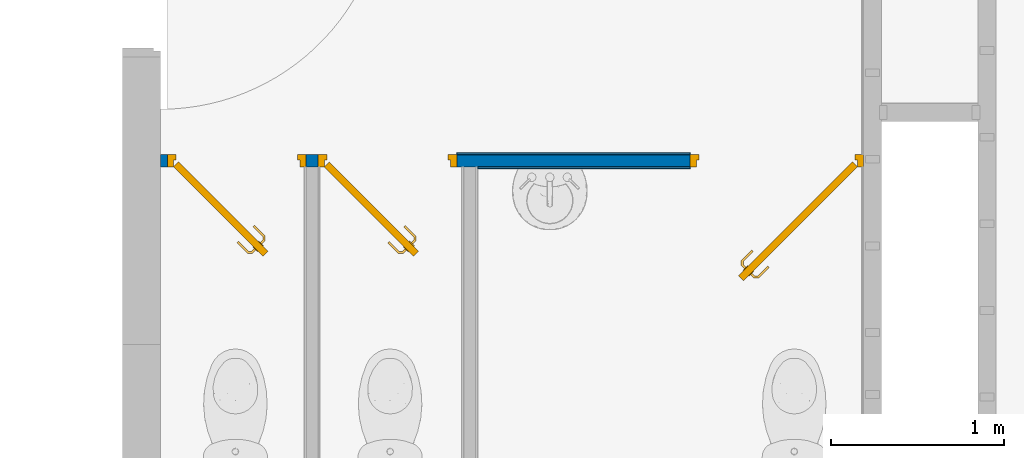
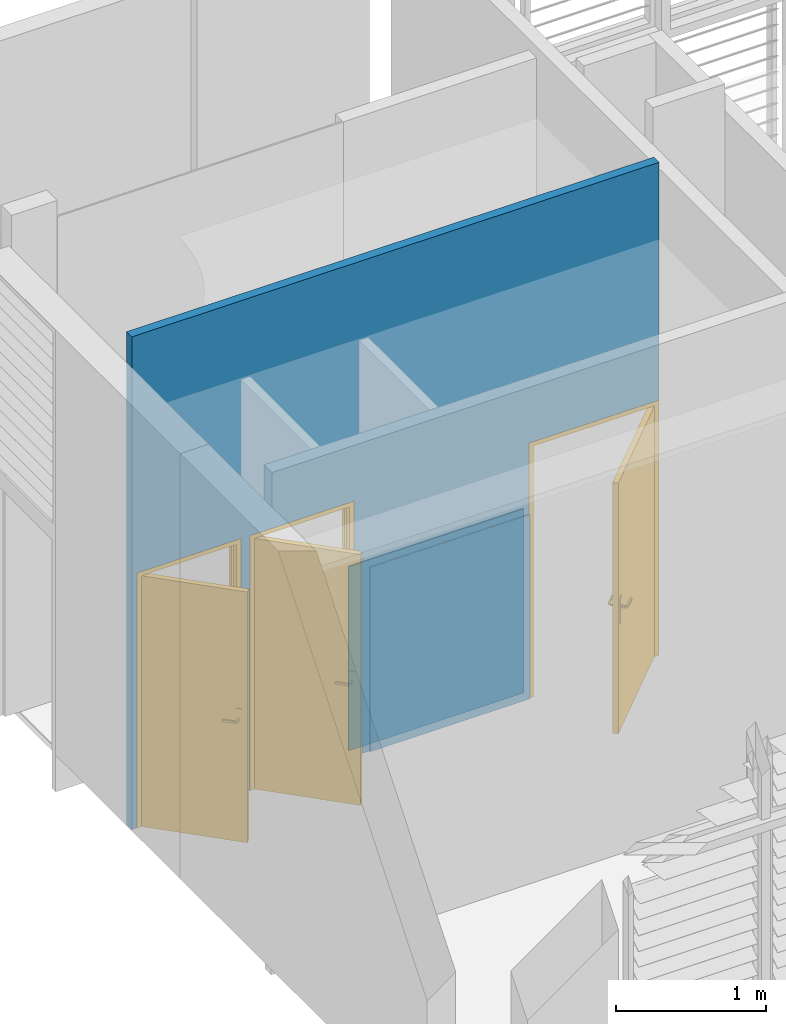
# One storey, part 5 of 8: 3 doors, 3 walls, 3 openings.
"""IFC2X3 building model written with IfcOpenShell, lengths in metres."""

import ifcopenshell
import ifcopenshell.guid

model = None  # the IFC model being written
_history = None  # IfcOwnerHistory: only IFC2X3 demands one
_inside = {}  # id of a spatial element -> (the spatial element, [elements in it])
_under = {}  # id of a project, library or spatial element -> (it, [spatial elements below it])
_declared = {}  # id of a project -> (the project, [libraries it declares])
_typed = {}  # id of a type object -> (the type object, [elements of that type])
_made_of = {}  # id of a material, layer set ... -> (it, [elements and type objects made of it])


def new_model(schema):
    """Start an empty IFC model of exactly this schema.

    Asked for "IFC4X3", IfcOpenShell would pick the latest addendum, in which some entities
    have other attributes; the version numbers below select the first issue.
    IFC2X3 requires an IfcOwnerHistory on every rooted entity: one is made here for all.
    """
    global model, _history
    if schema == "IFC4X3":
        model = ifcopenshell.file(schema_version=(4, 3, 0, 0))
    else:
        model = ifcopenshell.file(schema=schema)
    _inside.clear()
    _under.clear()
    _declared.clear()
    _typed.clear()
    _made_of.clear()
    _history = None
    if model.schema == "IFC2X3":
        org = make("IfcOrganization", Name="unknown")
        user = make(
            "IfcPersonAndOrganization",
            ThePerson=make("IfcPerson", FamilyName="unknown"),
            TheOrganization=org,
        )
        app = make(
            "IfcApplication",
            ApplicationDeveloper=org,
            Version="unknown",
            ApplicationFullName="unknown",
            ApplicationIdentifier="unknown",
        )
        _history = make(
            "IfcOwnerHistory",
            OwningUser=user,
            OwningApplication=app,
            ChangeAction="ADDED",
            CreationDate=0,
        )
    return model


def make(cls, **values):
    """One entity of the class cls with the attributes given. An attribute that is None is left unset."""
    return model.create_entity(
        cls, **{name: value for name, value in values.items() if value is not None}
    )


def entity(cls, *values):
    """Any entity or typed value of the class cls, its attributes in the order of the schema. None: left unset."""
    e = model.create_entity(cls)
    for i, value in enumerate(values):
        if value is not None:
            e[i] = value
    return e


def rooted(cls, **values):
    """An entity with a GlobalId (a new one), such as an element, a storey or a relation."""
    return make(cls, GlobalId=ifcopenshell.guid.new(), OwnerHistory=_history, **values)


def si_unit(unit_type, name, prefix=None):
    """IfcSIUnit, for example si_unit("LENGTHUNIT", "METRE", prefix="MILLI")."""
    return make("IfcSIUnit", UnitType=unit_type, Prefix=prefix, Name=name)


def converted_unit(unit_type, name, factor, base, dimensions=None, offset=None):
    """IfcConversionBasedUnit, such as the inch: factor (a typed value) times the base unit."""
    return make(
        "IfcConversionBasedUnit"
        if offset is None
        else "IfcConversionBasedUnitWithOffset",
        ConversionOffset=offset,
        Dimensions=None
        if dimensions is None
        else entity("IfcDimensionalExponents", *dimensions),
        UnitType=unit_type,
        Name=name,
        ConversionFactor=make(
            "IfcMeasureWithUnit", ValueComponent=factor, UnitComponent=base
        ),
    )


def derived_unit(unit_type, elements):
    """IfcDerivedUnit: a product of units, each with its exponent."""
    return make(
        "IfcDerivedUnit",
        Elements=[
            make("IfcDerivedUnitElement", Unit=unit, Exponent=power)
            for unit, power in elements
        ],
        UnitType=unit_type,
    )


def assignment(units):
    """IfcUnitAssignment: the units of a project."""
    return None if units is None else make("IfcUnitAssignment", Units=units)


def point(xyz):
    """IfcCartesianPoint."""
    return None if xyz is None else make("IfcCartesianPoint", Coordinates=xyz)


def direction(xyz):
    """IfcDirection."""
    return None if xyz is None else make("IfcDirection", DirectionRatios=xyz)


def frame(location, z_axis=None, x_axis=None):
    """IfcAxis2Placement3D, a coordinate frame: its origin and axes. An axis left out is left unset."""
    return make(
        "IfcAxis2Placement3D",
        Location=point(location),
        Axis=direction(z_axis),
        RefDirection=direction(x_axis),
    )


def frame_2d(location, x_axis=None):
    """IfcAxis2Placement2D, a coordinate frame in the plane: its origin and x axis."""
    return make(
        "IfcAxis2Placement2D", Location=point(location), RefDirection=direction(x_axis)
    )


def origin():
    """The frame at (0, 0, 0) with its axes left unset."""
    return frame((0.0, 0.0, 0.0))


def place(relative_to, where):
    """IfcLocalPlacement: puts the frame where relative to a parent placement (None: the world)."""
    return make(
        "IfcLocalPlacement", PlacementRelTo=relative_to, RelativePlacement=where
    )


def context(
    kind, dimensions, precision=None, world=None, true_north=None, identifier=None
):
    """IfcGeometricRepresentationContext, for example the 3D "Model" context."""
    return make(
        "IfcGeometricRepresentationContext",
        ContextIdentifier=identifier,
        ContextType=kind,
        CoordinateSpaceDimension=dimensions,
        Precision=precision,
        WorldCoordinateSystem=world,
        TrueNorth=true_north,
    )


def subcontext(parent, identifier, kind, view, scale=None):
    """IfcGeometricRepresentationSubContext, for example "Body" below "Model"."""
    return make(
        "IfcGeometricRepresentationSubContext",
        ContextIdentifier=identifier,
        ContextType=kind,
        ParentContext=parent,
        TargetScale=scale,
        TargetView=view,
    )


def project(units=None, contexts=None):
    """IfcProject with its units and contexts."""
    return rooted(
        "IfcProject",
        Name="project",
        RepresentationContexts=contexts,
        UnitsInContext=assignment(units),
    )


def spatial(cls, under=None, at=None, **own):
    """A site, building, storey or space (cls), placed at a placement, below another one or the project."""
    s = rooted(cls, ObjectPlacement=at, **own)
    if under is not None:
        _under.setdefault(under.id(), (under, []))[1].append(s)
    return s


def profile(cls, at=None, kind="AREA", **sizes):
    """A parametric profile (cls). Its sizes go by their IFC names, for example OverallWidth=200.0."""
    return make(cls, ProfileType=kind, Position=at, **sizes)


def rectangle(**sizes):
    """IfcRectangleProfileDef."""
    return profile("IfcRectangleProfileDef", **sizes)


def extrude(swept, where, along, depth):
    """IfcExtrudedAreaSolid: the profile swept, set in the frame where, extruded along a direction by depth."""
    return make(
        "IfcExtrudedAreaSolid",
        SweptArea=swept,
        Position=where,
        ExtrudedDirection=direction(along),
        Depth=depth,
    )


def faces_of(points, faces, orient=None, outer=None):
    """IfcFace entities. A face is a list of loops; a loop is a list of indices into points, from 0.

    orient and outer hold one flag for each loop. By default every Orientation is true, the
    first loop of a face is its IfcFaceOuterBound and the others are IfcFaceBound.
    """
    made = []
    for i, loops in enumerate(faces):
        bounds = []
        for j, loop in enumerate(loops):
            is_outer = j == 0 if outer is None else outer[i][j]
            bounds.append(
                make(
                    "IfcFaceOuterBound" if is_outer else "IfcFaceBound",
                    Bound=make("IfcPolyLoop", Polygon=[points[k] for k in loop]),
                    Orientation=True if orient is None else orient[i][j],
                )
            )
        made.append(make("IfcFace", Bounds=bounds))
    return made


def faceted_brep(points, faces, orient=None, outer=None, voids=None):
    """IfcFacetedBrep: a solid bounded by flat faces; with voids (closed shells), ...WithVoids."""
    shared = [point(p) for p in points]
    hull = make("IfcClosedShell", CfsFaces=faces_of(shared, faces, orient, outer))
    if voids is None:
        return make("IfcFacetedBrep", Outer=hull)
    return make(
        "IfcFacetedBrepWithVoids",
        Outer=hull,
        Voids=[
            make(cls, CfsFaces=faces_of(shared, fs, o, b)) for cls, fs, o, b in voids
        ],
    )


def shape(context_of_items, identifier, shape_type, items):
    """IfcShapeRepresentation: the items that make up one representation, for example the "Body"."""
    return make(
        "IfcShapeRepresentation",
        ContextOfItems=context_of_items,
        RepresentationIdentifier=identifier,
        RepresentationType=shape_type,
        Items=items,
    )


def source(mapping_origin, context_of_items, identifier, shape_type, items):
    """IfcRepresentationMap: a shape defined once, which mapped items show again and again."""
    return make(
        "IfcRepresentationMap",
        MappingOrigin=mapping_origin,
        MappedRepresentation=shape(context_of_items, identifier, shape_type, items),
    )


def transform(
    local_origin,
    x_axis=None,
    y_axis=None,
    z_axis=None,
    scale=None,
    scale2=None,
    scale3=None,
    uniform=True,
):
    """IfcCartesianTransformationOperator3D, or its non-uniform kind. x_axis, y_axis, z_axis: its Axis1, 2, 3."""
    if uniform:
        return make(
            "IfcCartesianTransformationOperator3D",
            Axis1=direction(x_axis),
            Axis2=direction(y_axis),
            LocalOrigin=point(local_origin),
            Scale=scale,
            Axis3=direction(z_axis),
        )
    return make(
        "IfcCartesianTransformationOperator3DnonUniform",
        Axis1=direction(x_axis),
        Axis2=direction(y_axis),
        LocalOrigin=point(local_origin),
        Scale=scale,
        Axis3=direction(z_axis),
        Scale2=scale2,
        Scale3=scale3,
    )


def mapped(mapping_source, mapping_target):
    """IfcMappedItem: shows the shape of a source again, moved by a transform."""
    return make(
        "IfcMappedItem", MappingSource=mapping_source, MappingTarget=mapping_target
    )


def material(Name=None, Category=None):
    """IfcMaterial."""
    return make("IfcMaterial", Name=Name, Category=Category)


def layer(
    of_material, thickness, ventilated=None, Name=None, Category=None, Priority=None
):
    """IfcMaterialLayer: one layer of a wall or slab, of a material (None: an air gap)."""
    return make(
        "IfcMaterialLayer",
        Material=of_material,
        LayerThickness=thickness,
        IsVentilated=ventilated,
        Name=Name,
        Category=Category,
        Priority=Priority,
    )


def layer_set(layers, Name=None):
    """IfcMaterialLayerSet."""
    return make("IfcMaterialLayerSet", MaterialLayers=layers, LayerSetName=Name)


def layer_usage(for_layer_set, set_direction, sense, offset, extent=None):
    """IfcMaterialLayerSetUsage: how a layer set lies in its element."""
    return make(
        "IfcMaterialLayerSetUsage",
        ForLayerSet=for_layer_set,
        LayerSetDirection=set_direction,
        DirectionSense=sense,
        OffsetFromReferenceLine=offset,
        ReferenceExtent=extent,
    )


def made_of(thing, what):
    """Note that an element or type object is made of a material, layer set ...; save() writes the relation."""
    if what is not None:
        _made_of.setdefault(what.id(), (what, []))[1].append(thing)
    return thing


def type_object(cls, material=None, **own):
    """A type object (cls), such as IfcWallType, which elements share."""
    return made_of(rooted(cls, **own), material)


def type_shapes(of_type, sources):
    """Give a type object the sources (RepresentationMaps) that its elements show as mapped items."""
    of_type.RepresentationMaps = sources


def element(
    cls,
    number,
    at=None,
    inside=None,
    cuts=None,
    type_object=None,
    material=None,
    context=None,
    identifier="Body",
    shape_type=None,
    held_by="IfcProductDefinitionShape",
    body=None,
    shapes=None,
    **own,
):
    """One element of the class cls, such as IfcWall. Its Tag is "e" and its number.

    at: its placement. inside: the storey or other place that contains it. cuts: it is an
    opening in that element (IfcRelVoidsElement). A single representation is given by context,
    identifier, shape_type and body (its items); several are given by shapes. held_by: the class
    of the entity that holds the representations. save() writes the other relations.
    """
    e = rooted(cls, Tag="e%d" % number, ObjectPlacement=at, **own)
    if body is not None:
        shapes = [shape(context, identifier, shape_type, body)]
    if shapes is not None:
        e.Representation = make(held_by, Representations=shapes)
    if inside is not None:
        _inside.setdefault(inside.id(), (inside, []))[1].append(e)
    if cuts is not None:
        rooted(
            "IfcRelVoidsElement", RelatingBuildingElement=cuts, RelatedOpeningElement=e
        )
    if type_object is not None:
        _typed.setdefault(type_object.id(), (type_object, []))[1].append(e)
    return made_of(e, material)


def fill(opening, filler):
    """IfcRelFillsElement: the door or window that sits in an opening."""
    return rooted(
        "IfcRelFillsElement",
        RelatingOpeningElement=opening,
        RelatedBuildingElement=filler,
    )


def aggregate(whole, parts):
    """IfcRelAggregates: a whole, such as a stair, and the parts it consists of."""
    return rooted("IfcRelAggregates", RelatingObject=whole, RelatedObjects=parts)


def save(model, path):
    """Write the relations noted so far, then the file.

    IfcRelAggregates (storeys below a building ...), IfcRelContainedInSpatialStructure (elements
    in a storey), IfcRelDefinesByType, IfcRelAssociatesMaterial and IfcRelDeclares: one each for
    every whole, place, type object, material and project.
    """
    for whole, parts in _under.values():
        aggregate(whole, parts)
    for where, things in _inside.values():
        rooted(
            "IfcRelContainedInSpatialStructure",
            RelatedElements=things,
            RelatingStructure=where,
        )
    for kind, things in _typed.values():
        rooted("IfcRelDefinesByType", RelatedObjects=things, RelatingType=kind)
    for what, things in _made_of.values():
        rooted("IfcRelAssociatesMaterial", RelatedObjects=things, RelatingMaterial=what)
    for by, libraries in _declared.values():
        rooted("IfcRelDeclares", RelatingContext=by, RelatedDefinitions=libraries)
    model.write(path)


model = new_model("IFC2X3")

# Units and contexts
model_context = context("Model", 3, precision=1e-05, world=origin(), true_north=direction((6.12303176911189e-17, 1.0)))
body_context = subcontext(model_context, "Body", "Model", "MODEL_VIEW")
ifc_project = project(units=[si_unit("LENGTHUNIT", "METRE"), si_unit("AREAUNIT", "SQUARE_METRE"), si_unit("VOLUMEUNIT", "CUBIC_METRE"), converted_unit("PLANEANGLEUNIT", "DEGREE", entity("IfcRatioMeasure", 0.0174532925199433), si_unit("PLANEANGLEUNIT", "RADIAN"), dimensions=[0, 0, 0, 0, 0, 0, 0]), si_unit("MASSUNIT", "GRAM", prefix="KILO"), derived_unit("MASSDENSITYUNIT", [(si_unit("MASSUNIT", "GRAM", prefix="KILO"), 1), (si_unit("LENGTHUNIT", "METRE"), -3)]), si_unit("TIMEUNIT", "SECOND"), si_unit("FREQUENCYUNIT", "HERTZ"), si_unit("THERMODYNAMICTEMPERATUREUNIT", "DEGREE_CELSIUS"), derived_unit("THERMALTRANSMITTANCEUNIT", [(si_unit("MASSUNIT", "GRAM", prefix="KILO"), 1), (si_unit("THERMODYNAMICTEMPERATUREUNIT", "KELVIN"), -1), (si_unit("TIMEUNIT", "SECOND"), -3)]), derived_unit("VOLUMETRICFLOWRATEUNIT", [(si_unit("LENGTHUNIT", "METRE"), 3), (si_unit("TIMEUNIT", "SECOND"), -1)]), si_unit("ELECTRICCURRENTUNIT", "AMPERE"), si_unit("ELECTRICVOLTAGEUNIT", "VOLT"), si_unit("POWERUNIT", "WATT"), si_unit("FORCEUNIT", "NEWTON", prefix="KILO"), si_unit("ILLUMINANCEUNIT", "LUX"), si_unit("LUMINOUSFLUXUNIT", "LUMEN"), si_unit("LUMINOUSINTENSITYUNIT", "CANDELA"), derived_unit("USERDEFINED", [(si_unit("MASSUNIT", "GRAM", prefix="KILO"), -1), (si_unit("LENGTHUNIT", "METRE"), -2), (si_unit("TIMEUNIT", "SECOND"), 3), (si_unit("LUMINOUSFLUXUNIT", "LUMEN"), 1)]), derived_unit("LINEARVELOCITYUNIT", [(si_unit("LENGTHUNIT", "METRE"), 1), (si_unit("TIMEUNIT", "SECOND"), -1)]), si_unit("PRESSUREUNIT", "PASCAL"), derived_unit("USERDEFINED", [(si_unit("LENGTHUNIT", "METRE"), -2), (si_unit("MASSUNIT", "GRAM", prefix="KILO"), 1), (si_unit("TIMEUNIT", "SECOND"), -2)])], contexts=[model_context])

# Site, building, storey
site_placement = place(None, origin())
site = spatial("IfcSite", under=ifc_project, at=site_placement, Name="Surface", CompositionType="ELEMENT")
building_placement = place(site_placement, origin())
building = spatial("IfcBuilding", under=site, at=building_placement, Name="ExPREF", CompositionType="ELEMENT")
storey_placement = place(building_placement, origin())
storey = spatial("IfcBuildingStorey", under=building, at=storey_placement, Name="RDC", CompositionType="ELEMENT", Elevation=-6.89719131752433e-12)

# Wall, openings, doors
ifc_material_1 = material(Name="AA-fermacell peint")
ifc_layer_1 = layer(ifc_material_1, 0.0125)
ifc_material_2 = material(Name="AA-isolant plancher")
ifc_layer_2 = layer(ifc_material_2, 0.045)
ifc_layer_3 = layer(ifc_material_1, 0.0125)
ifc_layer_set_1 = layer_set([ifc_layer_1, ifc_layer_2, ifc_layer_3], Name="Mur de base:Générique - Int. 70 mm")
ifc_layer_usage_1 = layer_usage(ifc_layer_set_1, "AXIS2", "POSITIVE", -0.035)
wall_type_1 = type_object("IfcWallType", Name="Mur de base:Générique - Int. 70 mm", PredefinedType="STANDARD", material=ifc_layer_set_1)
wall_1_placement = place(storey_placement, frame((49.4372436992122, -188.71606962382, 0.0), z_axis=(0.0, 0.0, 1.0), x_axis=(-1.0, 0.0, 0.0)))
wall_1 = element("IfcWallStandardCase", 1, at=wall_1_placement, inside=storey, type_object=wall_type_1, material=ifc_layer_usage_1, Name="Mur de base:Générique - Int. 70 mm", ObjectType="Mur de base:Générique - Int. 70 mm", context=body_context, shape_type="SweptSolid", body=[
    extrude(rectangle(XDim=4.05750000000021, YDim=0.0700000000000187, at=frame_2d((2.02875000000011, 0.0), x_axis=(-1.0, 0.0))), origin(), (0.0, 0.0, 1.0), 4.01000000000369),
])
opening_1_placement = place(wall_1_placement, frame((0.0, -0.035, 0.0)))
opening_1 = element("IfcOpeningElement", 2, at=opening_1_placement, cuts=wall_1, Name="Porte intérieur bois:PP (0.93m x 2.04m):1", ObjectType="Opening", context=body_context, shape_type="SweptSolid", body=[
    extrude(rectangle(XDim=2.075, YDim=1.0, at=frame_2d((1.0375, 0.5), x_axis=(1.0, 0.0))), frame((0.0, 0.0, 0.0), z_axis=(0.0, 1.0, 0.0), x_axis=(0.0, 0.0, 1.0)), (0.0, 0.0, 1.0), 0.07),
])
opening_2_placement = place(wall_1_placement, frame((2.34750000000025, -0.035, 0.0)))
opening_2 = element("IfcOpeningElement", 3, at=opening_2_placement, cuts=wall_1, Name="Porte intérieur bois:PP (0.73m x 2.04m):1", ObjectType="Opening", context=body_context, shape_type="SweptSolid", body=[
    extrude(rectangle(XDim=2.075, YDim=0.799999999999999, at=frame_2d((1.0375, 0.4), x_axis=(1.0, 0.0))), frame((0.0, 0.0, 0.0), z_axis=(0.0, 1.0, 0.0), x_axis=(0.0, 0.0, 1.0)), (0.0, 0.0, 1.0), 0.07),
])
opening_3_placement = place(wall_1_placement, frame((3.21750000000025, -0.035, 0.0)))
opening_3 = element("IfcOpeningElement", 4, at=opening_3_placement, cuts=wall_1, Name="Porte intérieur bois:PP (0.73m x 2.04m):1", ObjectType="Opening", context=body_context, shape_type="SweptSolid", body=[
    extrude(rectangle(XDim=2.075, YDim=0.799999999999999, at=frame_2d((1.0375, 0.4), x_axis=(1.0, 0.0))), frame((0.0, 0.0, 0.0), z_axis=(0.0, 1.0, 0.0), x_axis=(0.0, 0.0, 1.0)), (0.0, 0.0, 1.0), 0.07),
])
ifc_material_3 = material(Name="AA-Blanc satiné")
door_style_1 = type_object("IfcDoorStyle", Name="PP (0.93m x 2.04m)", ConstructionType="NOTDEFINED", OperationType="SINGLE_SWING_LEFT", ParameterTakesPrecedence=False, Sizeable=False, material=ifc_material_3)
shared_shape_1 = source(origin(), body_context, "Body", "Brep", [
    faceted_brep([(0.316565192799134, -0.584795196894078, 1.00778044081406), (0.313754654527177, -0.587605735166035, 1.007), (0.31375465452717, -0.587605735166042, 0.992999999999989), (0.316565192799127, -0.584795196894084, 0.99221955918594), (0.319429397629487, -0.581930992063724, 0.992219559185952), (0.32223993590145, -0.579120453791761, 0.993000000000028), (0.322239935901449, -0.579120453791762, 1.007), (0.319429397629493, -0.581930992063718, 1.00778044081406), (0.306340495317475, -0.563221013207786, 0.993000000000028), (0.306340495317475, -0.563221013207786, 1.007), (0.302365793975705, -0.56486738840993, 1.00778044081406), (0.302365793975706, -0.545331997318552, 1.00778044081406), (0.298315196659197, -0.543654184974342, 1.00778044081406), (0.298315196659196, -0.56654520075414, 1.00778044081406), (0.294340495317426, -0.568191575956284, 1.007), (0.294340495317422, -0.568191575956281, 0.992999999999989), (0.298315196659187, -0.566545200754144, 0.99221955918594), (0.298315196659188, -0.543654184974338, 0.99221955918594), (0.302365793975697, -0.545331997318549, 0.992219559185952), (0.302365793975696, -0.564867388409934, 0.992219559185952), (0.306340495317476, -0.546978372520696, 0.993000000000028), (0.306340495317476, -0.546978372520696, 1.007), (0.294340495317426, -0.542007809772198, 1.007), (0.294340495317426, -0.542007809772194, 0.992999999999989), (0.36471958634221, -0.488599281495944, 0.993000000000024), (0.361909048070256, -0.485788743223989, 0.992219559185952), (0.359044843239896, -0.48292453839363, 0.99221955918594), (0.356234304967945, -0.480114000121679, 0.992999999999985), (0.356234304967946, -0.48011400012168, 1.007), (0.359044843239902, -0.482924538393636, 1.00778044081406), (0.361909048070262, -0.485788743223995, 1.00778044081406), (0.364719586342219, -0.488599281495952, 1.007), (0.335530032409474, -0.517788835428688, 0.993000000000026), (0.335530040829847, -0.517788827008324, 1.007), (0.330705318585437, -0.51412826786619, 1.0078786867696), (0.322575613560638, -0.513772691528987, 1.007), (0.322575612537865, -0.513772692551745, 0.992999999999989), (0.330705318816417, -0.514128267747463, 0.992121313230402)], [[[0, 1, 2, 3, 4, 5, 6, 7]], [[6, 5, 8, 9]], [[9, 10, 7, 6]], [[10, 11, 12, 13, 0, 7]], [[13, 14, 1, 0]], [[2, 1, 14, 15]], [[15, 16, 3, 2]], [[16, 17, 18, 19, 4, 3]], [[19, 8, 5, 4]], [[9, 8, 20, 21]], [[21, 11, 10, 9]], [[12, 22, 14, 13]], [[15, 14, 22, 23]], [[23, 17, 16, 15]], [[18, 20, 8, 19]], [[24, 25, 26, 27, 28, 29, 30, 31]], [[21, 20, 32, 24, 31, 33]], [[33, 30, 34]], [[35, 34, 29]], [[21, 33, 11]], [[33, 31, 30]], [[28, 35, 29]], [[22, 12, 35]], [[35, 12, 34]], [[12, 11, 34]], [[11, 33, 34]], [[29, 34, 30]], [[22, 35, 28, 27, 36, 23]], [[36, 26, 37]], [[27, 26, 36]], [[17, 23, 36]], [[37, 32, 18]], [[20, 18, 32]], [[32, 25, 24]], [[26, 25, 37]], [[25, 32, 37]], [[17, 36, 37]], [[17, 37, 18]]]),
    faceted_brep([(0.351920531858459, -0.620150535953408, 1.00778044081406), (0.354784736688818, -0.617286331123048, 1.00778044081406), (0.357595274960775, -0.614475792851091, 1.00699999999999), (0.357595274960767, -0.614475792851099, 0.993000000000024), (0.354784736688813, -0.617286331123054, 0.992219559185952), (0.351920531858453, -0.620150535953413, 0.99221955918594), (0.349109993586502, -0.622961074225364, 0.992999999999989), (0.349109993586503, -0.622961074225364, 1.007), (0.368662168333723, -0.642513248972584, 1.007), (0.370308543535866, -0.638538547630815, 1.00778044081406), (0.3930050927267, -0.638538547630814, 1.00778044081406), (0.391327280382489, -0.634487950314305, 1.00778044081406), (0.371986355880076, -0.634487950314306, 1.00778044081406), (0.373632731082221, -0.630513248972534, 1.007), (0.373632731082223, -0.630513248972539, 0.993000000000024), (0.371986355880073, -0.634487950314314, 0.992219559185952), (0.391327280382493, -0.634487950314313, 0.992219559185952), (0.393005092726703, -0.638538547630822, 0.99221955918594), (0.370308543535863, -0.638538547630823, 0.99221955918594), (0.368662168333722, -0.642513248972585, 0.992999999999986), (0.394651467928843, -0.642513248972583, 1.007), (0.389680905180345, -0.630513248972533, 1.007), (0.38968090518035, -0.630513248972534, 0.993000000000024), (0.394651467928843, -0.642513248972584, 0.992999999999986), (0.456623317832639, -0.580541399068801, 0.992999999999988), (0.453812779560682, -0.577730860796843, 0.99221955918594), (0.450948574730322, -0.574866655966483, 0.992219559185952), (0.448138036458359, -0.57205611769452, 0.993000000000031), (0.44813803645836, -0.572056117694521, 1.007), (0.450948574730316, -0.574866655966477, 1.00778044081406), (0.453812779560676, -0.577730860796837, 1.00778044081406), (0.456623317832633, -0.580541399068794, 1.00699999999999), (0.422886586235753, -0.614278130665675, 1.007), (0.422570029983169, -0.606109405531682, 1.0078786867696), (0.418909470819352, -0.601284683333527, 1.007), (0.418909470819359, -0.601284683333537, 0.993000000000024), (0.422570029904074, -0.606109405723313, 0.992121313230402), (0.422886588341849, -0.614278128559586, 0.992999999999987)], [[[0, 1, 2, 3, 4, 5, 6, 7]], [[8, 9, 0, 7]], [[9, 10, 11, 12, 1, 0]], [[12, 13, 2, 1]], [[3, 2, 13, 14]], [[14, 15, 4, 3]], [[15, 16, 17, 18, 5, 4]], [[18, 19, 6, 5]], [[7, 6, 19, 8]], [[20, 10, 9, 8]], [[11, 21, 13, 12]], [[14, 13, 21, 22]], [[22, 16, 15, 14]], [[17, 23, 19, 18]], [[8, 19, 23, 20]], [[24, 25, 26, 27, 28, 29, 30, 31]], [[32, 30, 33]], [[31, 30, 32]], [[10, 20, 32]], [[33, 34, 11]], [[21, 11, 34]], [[34, 29, 28]], [[30, 29, 33]], [[29, 34, 33]], [[10, 32, 33]], [[10, 33, 11]], [[22, 21, 34, 28, 27, 35]], [[35, 26, 36]], [[37, 36, 25]], [[22, 35, 16]], [[35, 27, 26]], [[24, 37, 25]], [[23, 17, 37]], [[37, 17, 36]], [[17, 16, 36]], [[16, 35, 36]], [[25, 36, 26]], [[20, 23, 37, 24, 31, 32]]]),
    faceted_brep([(0.328853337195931, -0.579578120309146, 0.866003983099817), (0.335674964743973, -0.572756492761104, 0.870000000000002), (0.335674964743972, -0.572756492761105, 1.08), (0.32885333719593, -0.579578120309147, 1.08399601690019), (0.321532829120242, -0.586898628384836, 1.08535898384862), (0.314212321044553, -0.594219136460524, 1.08399601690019), (0.307390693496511, -0.601040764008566, 1.08), (0.307390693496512, -0.601040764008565, 0.870000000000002), (0.314212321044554, -0.594219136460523, 0.866003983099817), (0.321532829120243, -0.586898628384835, 0.86464101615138), (0.325317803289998, -0.576042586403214, 1.08399601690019), (0.33213943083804, -0.569220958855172, 1.08), (0.332139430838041, -0.569220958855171, 0.870000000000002), (0.325317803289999, -0.576042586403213, 0.866003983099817), (0.31799729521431, -0.583363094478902, 0.86464101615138), (0.310676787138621, -0.590683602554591, 0.866003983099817), (0.303855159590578, -0.597505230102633, 0.870000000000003), (0.303855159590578, -0.597505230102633, 1.08), (0.31067678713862, -0.590683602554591, 1.08399601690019), (0.317997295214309, -0.583363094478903, 1.08535898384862)], [[[0, 1, 2, 3, 4, 5, 6, 7, 8, 9]], [[10, 11, 12, 13, 14, 15, 16, 17, 18, 19]], [[11, 10, 3, 2]], [[3, 10, 19, 4]], [[19, 18, 5, 4]], [[18, 17, 6, 5]], [[7, 6, 17, 16]], [[16, 15, 8, 7]], [[8, 15, 14, 9]], [[14, 13, 0, 9]], [[13, 12, 1, 0]], [[2, 1, 12, 11]]]),
    faceted_brep([(0.360673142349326, -0.61139792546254, 0.866003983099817), (0.367494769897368, -0.604576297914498, 0.870000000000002), (0.367494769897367, -0.604576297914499, 1.08), (0.360673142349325, -0.611397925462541, 1.08399601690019), (0.353352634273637, -0.61871843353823, 1.08535898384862), (0.346032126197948, -0.626038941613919, 1.08399601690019), (0.339210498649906, -0.632860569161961, 1.08), (0.339210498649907, -0.63286056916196, 0.870000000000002), (0.346032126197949, -0.626038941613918, 0.866003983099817), (0.353352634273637, -0.618718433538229, 0.86464101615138), (0.357137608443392, -0.607862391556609, 1.08399601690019), (0.363959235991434, -0.601040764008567, 1.08), (0.363959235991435, -0.601040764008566, 0.870000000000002), (0.357137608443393, -0.607862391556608, 0.866003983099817), (0.349817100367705, -0.615182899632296, 0.86464101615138), (0.342496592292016, -0.622503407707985, 0.866003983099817), (0.335674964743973, -0.629325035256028, 0.870000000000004), (0.335674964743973, -0.629325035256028, 1.08), (0.342496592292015, -0.622503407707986, 1.08399601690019), (0.349817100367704, -0.615182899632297, 1.08535898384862)], [[[0, 1, 2, 3, 4, 5, 6, 7, 8, 9]], [[10, 11, 12, 13, 14, 15, 16, 17, 18, 19]], [[16, 15, 8, 7]], [[8, 15, 14, 9]], [[14, 13, 0, 9]], [[13, 12, 1, 0]], [[2, 1, 12, 11]], [[11, 10, 3, 2]], [[3, 10, 19, 4]], [[19, 18, 5, 4]], [[18, 17, 6, 5]], [[7, 6, 17, 16]]]),
    faceted_brep([(0.279106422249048, -0.629325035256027, 2.04), (0.936715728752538, 0.0282842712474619, 2.04), (0.936715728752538, 0.0282842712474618, 0.0), (0.279106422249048, -0.629325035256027, 0.0), (0.30739069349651, -0.657609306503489, 2.04), (0.30739069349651, -0.657609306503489, 0.0), (0.965, 0.0, 0.0), (0.965, 0.0, 2.04)], [[[0, 1, 2, 3]], [[4, 5, 6, 7]], [[1, 0, 4, 7]], [[2, 1, 7, 6]], [[3, 2, 6, 5]], [[0, 3, 5, 4]]]),
    faceted_brep([(0.0, 0.0, 0.0), (0.0, 0.0699999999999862, 0.0), (0.0500000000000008, 0.0699999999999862, 0.0), (0.0500000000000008, 0.04, 0.0), (0.0349999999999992, 0.04, 0.0), (0.0349999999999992, 0.0, 0.0), (0.0, 0.0, 2.07500000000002), (0.0, 0.0699999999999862, 2.07500000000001), (1.0, 0.0699999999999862, 2.07500000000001), (1.0, 0.0699999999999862, 0.0), (0.949999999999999, 0.0699999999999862, 0.0), (0.949999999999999, 0.0699999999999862, 2.025), (0.050000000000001, 0.0699999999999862, 2.025), (0.0500000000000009, 0.04, 2.025), (0.949999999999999, 0.04, 2.025), (0.949999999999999, 0.04, 0.0), (0.965, 0.04, 0.0), (0.965, 0.04, 2.04), (0.0349999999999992, 0.04, 2.04), (0.0349999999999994, 0.0, 2.04), (0.965000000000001, 0.0, 2.04), (0.965, 0.0, 0.0), (1.0, 0.0, 0.0), (1.0, 0.0, 2.07500000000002)], [[[0, 1, 2, 3, 4, 5]], [[1, 0, 6, 7]], [[2, 1, 7, 8, 9, 10, 11, 12]], [[3, 2, 12, 13]], [[4, 3, 13, 14, 15, 16, 17, 18]], [[5, 4, 18, 19]], [[0, 5, 19, 20, 21, 22, 23, 6]], [[8, 23, 22, 9]], [[22, 21, 16, 15, 10, 9]], [[14, 11, 10, 15]], [[20, 17, 16, 21]], [[7, 6, 23, 8]], [[13, 12, 11, 14]], [[19, 18, 17, 20]]]),
])
type_shapes(door_style_1, [shared_shape_1])
door_1_placement = place(opening_1_placement, frame((1.0, 0.0700000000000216, 0.0), z_axis=(0.0, 0.0, 1.0), x_axis=(-1.0, 0.0, 0.0)))
door_1 = element("IfcDoor", 5, at=door_1_placement, inside=storey, type_object=door_style_1, material=ifc_material_3, Name="Porte intérieur bois:PP (0.93m x 2.04m)", ObjectType="PP (0.93m x 2.04m)", OverallHeight=2.075, OverallWidth=0.999999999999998, context=body_context, shape_type="MappedRepresentation", body=[
    mapped(shared_shape_1, transform((0.0, 0.0, 0.0), scale=1.0)),
])
fill(opening_1, door_1)
door_style_2 = type_object("IfcDoorStyle", Name="PP (0.73m x 2.04m)", ConstructionType="NOTDEFINED", OperationType="SINGLE_SWING_RIGHT", ParameterTakesPrecedence=False, Sizeable=False, material=ifc_material_3)
shared_shape_2 = source(origin(), body_context, "Body", "Brep", [
    faceted_brep([(0.609149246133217, -0.440509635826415, 0.992219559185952), (0.612013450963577, -0.443373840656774, 0.99221955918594), (0.614823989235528, -0.446184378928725, 0.992999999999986), (0.614823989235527, -0.446184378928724, 1.007), (0.612013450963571, -0.443373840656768, 1.00778044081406), (0.609149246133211, -0.440509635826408, 1.00778044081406), (0.606338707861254, -0.437699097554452, 1.007), (0.606338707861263, -0.43769909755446, 0.993000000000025), (0.622238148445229, -0.421799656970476, 1.007), (0.622238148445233, -0.421799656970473, 0.993000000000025), (0.626212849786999, -0.42344603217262, 1.00778044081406), (0.630263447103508, -0.42512384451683, 1.00778044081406), (0.630263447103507, -0.402232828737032, 1.00778044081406), (0.626212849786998, -0.403910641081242, 1.00778044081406), (0.634238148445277, -0.426770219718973, 1.007), (0.634238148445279, -0.426770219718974, 0.992999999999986), (0.630263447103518, -0.425123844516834, 0.99221955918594), (0.626212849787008, -0.423446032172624, 0.992219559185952), (0.626212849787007, -0.403910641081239, 0.992219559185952), (0.630263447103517, -0.402232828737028, 0.99221955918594), (0.622238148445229, -0.405557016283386, 1.007), (0.622238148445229, -0.405557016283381, 0.993000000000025), (0.634238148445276, -0.400586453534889, 1.007), (0.634238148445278, -0.400586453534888, 0.992999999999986), (0.566669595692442, -0.344367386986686, 1.00778044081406), (0.569533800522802, -0.341503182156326, 1.00778044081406), (0.572344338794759, -0.338692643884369, 1.007), (0.572344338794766, -0.338692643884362, 0.992999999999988), (0.569533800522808, -0.34150318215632, 0.99221955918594), (0.566669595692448, -0.344367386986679, 0.992219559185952), (0.563859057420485, -0.347177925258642, 0.993000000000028), (0.563859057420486, -0.347177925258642, 1.007), (0.593048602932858, -0.376367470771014, 1.007), (0.593048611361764, -0.376367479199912, 0.993000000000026), (0.597873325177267, -0.37270691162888, 1.0078786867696), (0.606003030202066, -0.372351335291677, 1.007), (0.606003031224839, -0.372351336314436, 0.992999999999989), (0.597873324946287, -0.372706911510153, 0.992121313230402)], [[[0, 1, 2, 3, 4, 5, 6, 7]], [[8, 9, 7, 6]], [[5, 10, 8, 6]], [[5, 4, 11, 12, 13, 10]], [[3, 14, 11, 4]], [[14, 3, 2, 15]], [[2, 1, 16, 15]], [[1, 0, 17, 18, 19, 16]], [[0, 7, 9, 17]], [[20, 21, 9, 8]], [[8, 10, 13, 20]], [[14, 22, 12, 11]], [[23, 22, 14, 15]], [[15, 16, 19, 23]], [[17, 9, 21, 18]], [[24, 25, 26, 27, 28, 29, 30, 31]], [[21, 20, 32, 31, 30, 33]], [[34, 24, 32]], [[25, 34, 35]], [[13, 32, 20]], [[24, 31, 32]], [[25, 35, 26]], [[35, 12, 22]], [[34, 12, 35]], [[34, 13, 12]], [[34, 32, 13]], [[24, 34, 25]], [[22, 23, 36, 27, 26, 35]], [[37, 28, 36]], [[36, 28, 27]], [[36, 23, 19]], [[18, 33, 37]], [[33, 18, 21]], [[30, 29, 33]], [[37, 29, 28]], [[37, 33, 29]], [[37, 36, 19]], [[18, 37, 19]]]),
    faceted_brep([(0.573793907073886, -0.475864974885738, 1.00778044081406), (0.576658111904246, -0.478729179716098, 1.00778044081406), (0.579468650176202, -0.481539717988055, 1.00699999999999), (0.579468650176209, -0.481539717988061, 0.992999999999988), (0.576658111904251, -0.478729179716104, 0.99221955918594), (0.573793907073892, -0.475864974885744, 0.992219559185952), (0.570983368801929, -0.473054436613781, 0.993000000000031), (0.57098336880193, -0.473054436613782, 1.007), (0.558270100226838, -0.497117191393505, 1.00778044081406), (0.559916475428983, -0.501091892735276, 1.007), (0.556592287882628, -0.493066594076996, 1.00778044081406), (0.537251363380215, -0.493066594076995, 1.00778044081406), (0.535573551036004, -0.497117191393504, 1.00778044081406), (0.554945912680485, -0.489091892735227, 1.007), (0.554945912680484, -0.489091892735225, 0.993000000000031), (0.556592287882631, -0.493066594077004, 0.992219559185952), (0.558270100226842, -0.497117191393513, 0.99221955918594), (0.535573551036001, -0.497117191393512, 0.99221955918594), (0.537251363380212, -0.493066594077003, 0.992219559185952), (0.559916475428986, -0.501091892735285, 0.992999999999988), (0.533927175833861, -0.501091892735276, 1.007), (0.538897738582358, -0.489091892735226, 1.007), (0.538897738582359, -0.489091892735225, 0.993000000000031), (0.533927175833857, -0.501091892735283, 0.992999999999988), (0.471955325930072, -0.439120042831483, 1.007), (0.474765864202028, -0.436309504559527, 1.00778044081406), (0.477630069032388, -0.433445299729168, 1.00778044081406), (0.480440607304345, -0.430634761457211, 1.00699999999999), (0.480440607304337, -0.430634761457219, 0.993000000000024), (0.477630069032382, -0.433445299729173, 0.992219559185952), (0.474765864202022, -0.436309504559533, 0.99221955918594), (0.471955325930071, -0.439120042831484, 0.992999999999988), (0.506008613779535, -0.464688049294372, 1.0078786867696), (0.505692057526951, -0.472856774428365, 1.007), (0.509669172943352, -0.459863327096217, 1.007), (0.509669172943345, -0.459863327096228, 0.993000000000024), (0.506008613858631, -0.464688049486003, 0.992121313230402), (0.505692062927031, -0.472856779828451, 0.992999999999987)], [[[0, 1, 2, 3, 4, 5, 6, 7]], [[2, 1, 8, 9]], [[1, 0, 10, 11, 12, 8]], [[0, 7, 13, 10]], [[14, 13, 7, 6]], [[5, 15, 14, 6]], [[5, 4, 16, 17, 18, 15]], [[3, 19, 16, 4]], [[9, 19, 3, 2]], [[9, 8, 12, 20]], [[10, 13, 21, 11]], [[22, 21, 13, 14]], [[14, 15, 18, 22]], [[16, 19, 23, 17]], [[20, 23, 19, 9]], [[24, 25, 26, 27, 28, 29, 30, 31]], [[32, 25, 33]], [[33, 25, 24]], [[33, 20, 12]], [[11, 34, 32]], [[34, 11, 21]], [[27, 26, 34]], [[32, 26, 25]], [[32, 34, 26]], [[32, 33, 12]], [[11, 32, 12]], [[21, 22, 35, 28, 27, 34]], [[36, 29, 35]], [[30, 36, 37]], [[18, 35, 22]], [[29, 28, 35]], [[30, 37, 31]], [[37, 17, 23]], [[36, 17, 37]], [[36, 18, 17]], [[36, 35, 18]], [[29, 36, 30]], [[23, 20, 33, 24, 31, 37]]]),
    faceted_brep([(0.621187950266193, -0.459619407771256, 0.870000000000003), (0.621187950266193, -0.459619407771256, 1.08), (0.614366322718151, -0.452797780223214, 1.08399601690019), (0.607045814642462, -0.445477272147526, 1.08535898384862), (0.599725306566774, -0.438156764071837, 1.08399601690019), (0.592903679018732, -0.431335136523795, 1.08), (0.592903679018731, -0.431335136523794, 0.870000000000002), (0.599725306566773, -0.438156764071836, 0.866003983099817), (0.607045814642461, -0.445477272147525, 0.86464101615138), (0.61436632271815, -0.452797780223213, 0.866003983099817), (0.610581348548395, -0.441941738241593, 1.08535898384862), (0.617901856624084, -0.449262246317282, 1.08399601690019), (0.624723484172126, -0.456083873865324, 1.08), (0.624723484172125, -0.456083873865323, 0.870000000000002), (0.617901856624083, -0.449262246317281, 0.866003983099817), (0.610581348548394, -0.441941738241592, 0.86464101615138), (0.603260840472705, -0.434621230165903, 0.866003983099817), (0.596439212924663, -0.427799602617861, 0.870000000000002), (0.596439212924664, -0.427799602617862, 1.08), (0.603260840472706, -0.434621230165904, 1.08399601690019)], [[[0, 1, 2, 3, 4, 5, 6, 7, 8, 9]], [[10, 11, 12, 13, 14, 15, 16, 17, 18, 19]], [[4, 19, 18, 5]], [[3, 10, 19, 4]], [[2, 11, 10, 3]], [[2, 1, 12, 11]], [[13, 12, 1, 0]], [[9, 14, 13, 0]], [[8, 15, 14, 9]], [[7, 16, 15, 8]], [[7, 6, 17, 16]], [[17, 6, 5, 18]]]),
    faceted_brep([(0.589368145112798, -0.491439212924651, 0.870000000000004), (0.589368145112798, -0.491439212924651, 1.08), (0.582546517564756, -0.484617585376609, 1.08399601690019), (0.575226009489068, -0.47729707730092, 1.08535898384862), (0.567905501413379, -0.469976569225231, 1.08399601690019), (0.561083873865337, -0.46315494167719, 1.08), (0.561083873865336, -0.463154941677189, 0.870000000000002), (0.567905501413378, -0.469976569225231, 0.866003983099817), (0.575226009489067, -0.477297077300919, 0.86464101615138), (0.582546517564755, -0.484617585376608, 0.866003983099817), (0.592903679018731, -0.487903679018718, 1.08), (0.59290367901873, -0.487903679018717, 0.870000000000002), (0.586082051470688, -0.481082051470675, 0.866003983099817), (0.578761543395, -0.473761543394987, 0.86464101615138), (0.571441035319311, -0.466441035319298, 0.866003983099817), (0.564619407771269, -0.459619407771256, 0.870000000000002), (0.56461940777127, -0.459619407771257, 1.08), (0.571441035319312, -0.466441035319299, 1.08399601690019), (0.578761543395, -0.473761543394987, 1.08535898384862), (0.586082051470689, -0.481082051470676, 1.08399601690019)], [[[0, 1, 2, 3, 4, 5, 6, 7, 8, 9]], [[10, 11, 12, 13, 14, 15, 16, 17, 18, 19]], [[9, 12, 11, 0]], [[8, 13, 12, 9]], [[7, 14, 13, 8]], [[7, 6, 15, 14]], [[15, 6, 5, 16]], [[4, 17, 16, 5]], [[3, 18, 17, 4]], [[2, 19, 18, 3]], [[2, 1, 10, 19]], [[11, 10, 1, 0]]]),
    faceted_brep([(0.649472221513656, -0.487903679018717, 2.04), (0.649472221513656, -0.487903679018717, 0.0), (0.133284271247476, 0.0282842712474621, 0.0), (0.133284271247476, 0.0282842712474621, 2.04), (0.621187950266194, -0.516187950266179, 2.04), (0.105000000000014, 0.0, 2.04), (0.105000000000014, 0.0, 0.0), (0.621187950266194, -0.516187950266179, 0.0)], [[[0, 1, 2, 3]], [[4, 5, 6, 7]], [[3, 5, 4, 0]], [[2, 6, 5, 3]], [[1, 7, 6, 2]], [[0, 4, 7, 1]]]),
    faceted_brep([(0.870000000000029, 0.0, 0.0), (0.835000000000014, 0.0, 0.0), (0.835000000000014, 0.04, 0.0), (0.820000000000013, 0.04, 0.0), (0.820000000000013, 0.0699999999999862, 0.0), (0.870000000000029, 0.0699999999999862, 0.0), (0.870000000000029, 0.0699999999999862, 2.07500000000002), (0.870000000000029, 0.0, 2.07500000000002), (0.820000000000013, 0.0699999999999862, 2.025), (0.120000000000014, 0.0699999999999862, 2.025), (0.120000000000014, 0.0699999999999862, 0.0), (0.0699999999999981, 0.0699999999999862, 0.0), (0.0699999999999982, 0.0699999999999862, 2.07500000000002), (0.820000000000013, 0.04, 2.025), (0.835000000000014, 0.04, 2.04), (0.105000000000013, 0.04, 2.04), (0.105000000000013, 0.04, 0.0), (0.120000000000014, 0.04, 0.0), (0.120000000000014, 0.04, 2.025), (0.835000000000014, 0.0, 2.04), (0.0699999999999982, 0.0, 2.07500000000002), (0.0699999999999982, 0.0, 0.0), (0.105000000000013, 0.0, 0.0), (0.105000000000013, 0.0, 2.04)], [[[0, 1, 2, 3, 4, 5]], [[5, 6, 7, 0]], [[4, 8, 9, 10, 11, 12, 6, 5]], [[3, 13, 8, 4]], [[2, 14, 15, 16, 17, 18, 13, 3]], [[1, 19, 14, 2]], [[0, 7, 20, 21, 22, 23, 19, 1]], [[12, 11, 21, 20]], [[21, 11, 10, 17, 16, 22]], [[18, 17, 10, 9]], [[23, 22, 16, 15]], [[6, 12, 20, 7]], [[13, 18, 9, 8]], [[19, 23, 15, 14]]]),
])
type_shapes(door_style_2, [shared_shape_2])
door_2_placement = place(opening_3_placement, frame((0.870000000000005, 0.0700000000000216, 0.0), z_axis=(0.0, 0.0, 1.0), x_axis=(-1.0, 0.0, 0.0)))
door_2 = element("IfcDoor", 6, at=door_2_placement, inside=storey, type_object=door_style_2, material=ifc_material_3, Name="Porte intérieur bois:PP (0.73m x 2.04m)", ObjectType="PP (0.73m x 2.04m)", OverallHeight=2.075, OverallWidth=0.8, context=body_context, shape_type="MappedRepresentation", body=[
    mapped(shared_shape_2, transform((0.0, 0.0, 0.0), scale=1.0)),
])
fill(opening_3, door_2)
door_3_placement = place(opening_2_placement, frame((0.870000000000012, 0.0700000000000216, 0.0), z_axis=(0.0, 0.0, 1.0), x_axis=(-1.0, 0.0, 0.0)))
door_3 = element("IfcDoor", 7, at=door_3_placement, inside=storey, type_object=door_style_2, material=ifc_material_3, Name="Porte intérieur bois:PP (0.73m x 2.04m)", ObjectType="PP (0.73m x 2.04m)", OverallHeight=2.075, OverallWidth=0.8, context=body_context, shape_type="MappedRepresentation", body=[
    mapped(shared_shape_2, transform((0.0, 0.0, 0.0), scale=1.0)),
])
fill(opening_2, door_3)

# Walls
ifc_material_4 = material(Name="AA-sol carrelage")
ifc_layer_4 = layer(ifc_material_4, 0.01)
ifc_layer_set_2 = layer_set([ifc_layer_4], Name="Mur de base:A-carrelage")
ifc_layer_usage_2 = layer_usage(ifc_layer_set_2, "AXIS2", "NEGATIVE", 0.005)
wall_type_2 = type_object("IfcWallType", Name="Mur de base:A-carrelage", PredefinedType="STANDARD", material=ifc_layer_set_2)
wall_2_placement = place(storey_placement, frame((47.209743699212, -188.75606962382, 0.0)))
element("IfcWallStandardCase", 8, at=wall_2_placement, inside=storey, type_object=wall_type_2, material=ifc_layer_usage_2, Name="Mur de base:A-carrelage", ObjectType="Mur de base:A-carrelage", context=body_context, shape_type="SweptSolid", body=[
    extrude(rectangle(XDim=1.22750000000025, YDim=0.0100000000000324, at=frame_2d((0.613750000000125, 0.0), x_axis=(-1.0, 0.0))), origin(), (0.0, 0.0, 1.0), 1.5),
])
ifc_layer_usage_3 = layer_usage(ifc_layer_set_2, "AXIS2", "POSITIVE", -0.005)
wall_3_placement = place(storey_placement, frame((47.089743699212, -188.67606962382, 0.0)))
element("IfcWallStandardCase", 9, at=wall_3_placement, inside=storey, type_object=wall_type_2, material=ifc_layer_usage_3, Name="Mur de base:A-carrelage", ObjectType="Mur de base:A-carrelage", context=body_context, shape_type="SweptSolid", body=[
    extrude(rectangle(XDim=1.34750000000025, YDim=0.0100000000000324, at=frame_2d((0.673750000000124, 0.0), x_axis=(-1.0, 0.0))), origin(), (0.0, 0.0, 1.0), 1.5),
])

save(model, "model.ifc")
